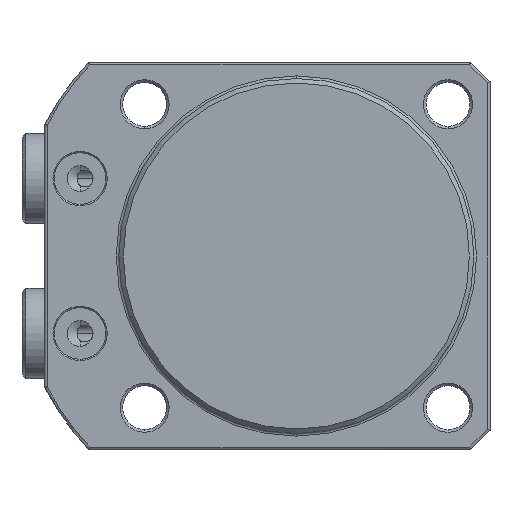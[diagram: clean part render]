
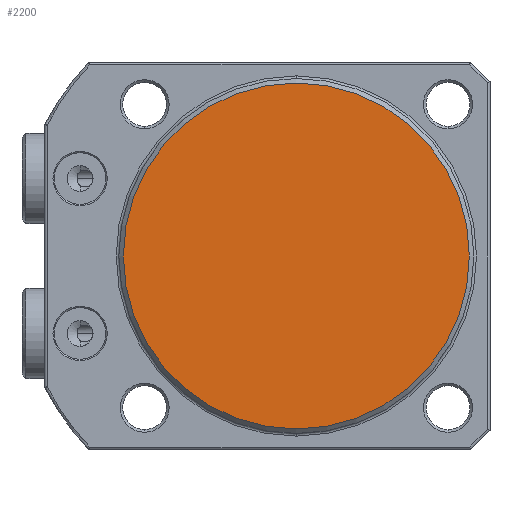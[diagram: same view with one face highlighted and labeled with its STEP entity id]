
A CAD part, front view. The second image highlights one B-rep face of the part: STEP entity #2200.
In plain terms, the highlighted planar face has unit normal (0, -1, 0) as drawn and (-1, 0, 0) by its records, which use the part's own axes.
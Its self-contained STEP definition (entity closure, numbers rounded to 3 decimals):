
#1488=PLANE('',#7793);
#2200=ADVANCED_FACE('',(#2586),#1488,.F.);
#2586=FACE_OUTER_BOUND('',#2979,.T.);
#2979=EDGE_LOOP('',(#5335));
#5335=ORIENTED_EDGE('',*,*,#6692,.T.);
#5855=VERTEX_POINT('',#12713);
#6692=EDGE_CURVE('',#5855,#5855,#7073,.T.);
#7073=CIRCLE('',#7792,26.8);
#7792=AXIS2_PLACEMENT_3D('',#12712,#9588,#9589);
#7793=AXIS2_PLACEMENT_3D('',#12714,#9590,#9591);
#9588=DIRECTION('',(-1.,0.,0.));
#9589=DIRECTION('',(0.,0.,-1.));
#9590=DIRECTION('',(1.,0.,0.));
#9591=DIRECTION('',(0.,0.,1.));
#12712=CARTESIAN_POINT('',(0.,0.,0.));
#12713=CARTESIAN_POINT('',(0.,0.,-26.8));
#12714=CARTESIAN_POINT('',(0.,0.,0.));
